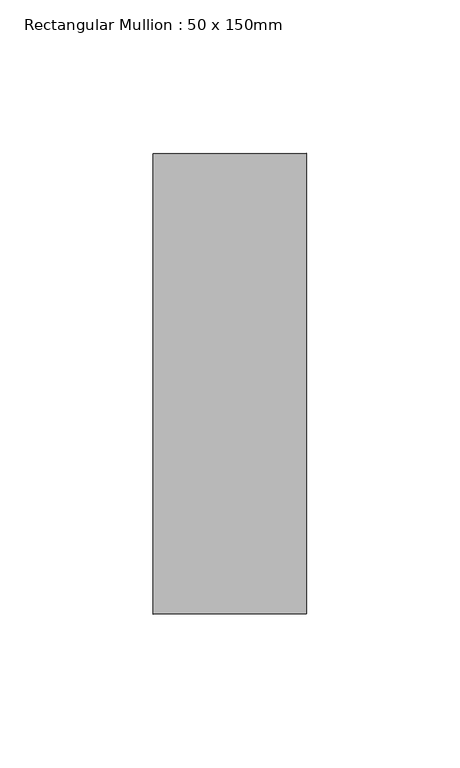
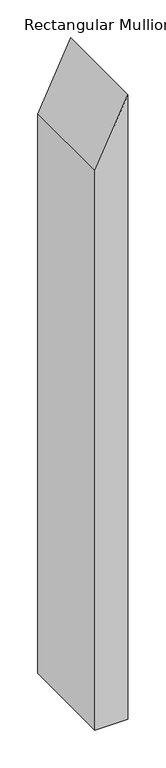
"""IFC4 building model written with IfcOpenShell, lengths in millimetres: member geometry, Rectangular Mullion : 50 x 150mm."""

from ifc_helpers import new_model, si_unit, frame, origin, place, context, project, spatial, polyline, outline, extrude, source, transform, mapped, element, save


def rectangular_mullion_50_x_150mm_7893004c(model_context):
    return source(origin(), model_context, "Body", "SweptSolid", [
        extrude(outline(polyline([(-63.8827421, 25.0), (-169.0954033, -25.0), (-1068.3851252, -25.0), (-1068.3851252, 25.0), (-63.8827421, 25.0)])), frame((0.0, -75.0, 0.0), z_axis=(0.0, 1.0, 0.0), x_axis=(0.0, 0.0, 1.0)), (0.0, 0.0, 1.0), 150.0),
    ])


if __name__ == "__main__":
    model = new_model("IFC4")
    model_context = context("Model", 3, world=origin())
    ifc_project = project(units=[si_unit("LENGTHUNIT", "METRE", prefix="MILLI")], contexts=[model_context])
    site = spatial("IfcSite", under=ifc_project)
    building = spatial("IfcBuilding", under=site)
    placement = place(None, origin())
    rectangular_mullion_50_x_150mm_shape = rectangular_mullion_50_x_150mm_7893004c(model_context)
    element("IfcMember", 1, ObjectType="Rectangular Mullion : 50 x 150mm", at=placement, inside=building, context=model_context, shape_type="MappedRepresentation", body=[
        mapped(rectangular_mullion_50_x_150mm_shape, transform((0.0, 0.0, 0.0), x_axis=(1.0, 0.0, 0.0), y_axis=(0.0, 1.0, 0.0), z_axis=(0.0, 0.0, 1.0))),
    ])
    save(model, "model.ifc")
